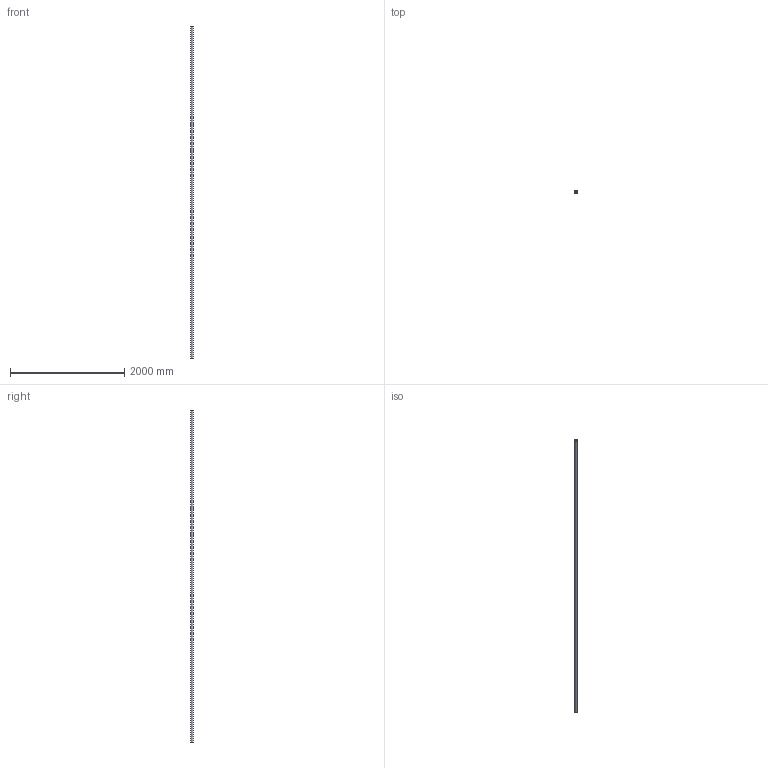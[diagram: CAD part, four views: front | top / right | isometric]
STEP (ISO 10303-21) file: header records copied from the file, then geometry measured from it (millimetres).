
FILE_DESCRIPTION(/* description */ ('RT50x5x5800LG'),/* implementation_level */ '2;1');
FILE_NAME(/* name */ 'C:\Users\Callum\The Trustee for INKSTONE UNIT TRUST\GRP Australia - Documents\8 Drawings\Handrails\3D Models\Handrail Fittings STEP\RT50x5 (5800).stp',/* time_stamp */ '2022-09-15T14:09:50+10:00',/* author */ ('Callum'),/* organization */ (''),/* preprocessor_version */ 'ST-DEVELOPER v18.1',/* originating_system */ 'Autodesk Inventor 2022',/* authorisation */ '');
FILE_SCHEMA (('AUTOMOTIVE_DESIGN { 1 0 10303 214 3 1 1 }'));
Length unit declared in the file: millimetre
Products named in the file (1): Tubing (5800)
Bounding box: 50 x 50 x 5800 mm (x, y, z)
Volume: 4099778.4 mm3; surface area: 1641325.1 mm2
Topology: 1 solids, 1 shells, 4 faces, 6 edges, 4 vertices
Faces by surface type: plane 2, cylinder 2
Full cylindrical faces by diameter (mm): 40 x1, 50 x1
Entity records: 141 total; most frequent: DIRECTION 20, CARTESIAN_POINT 15, ORIENTED_EDGE 12, AXIS2_PLACEMENT_3D 9, EDGE_LOOP 6, EDGE_CURVE 6, FACE_OUTER_BOUND 4, CIRCLE 4
